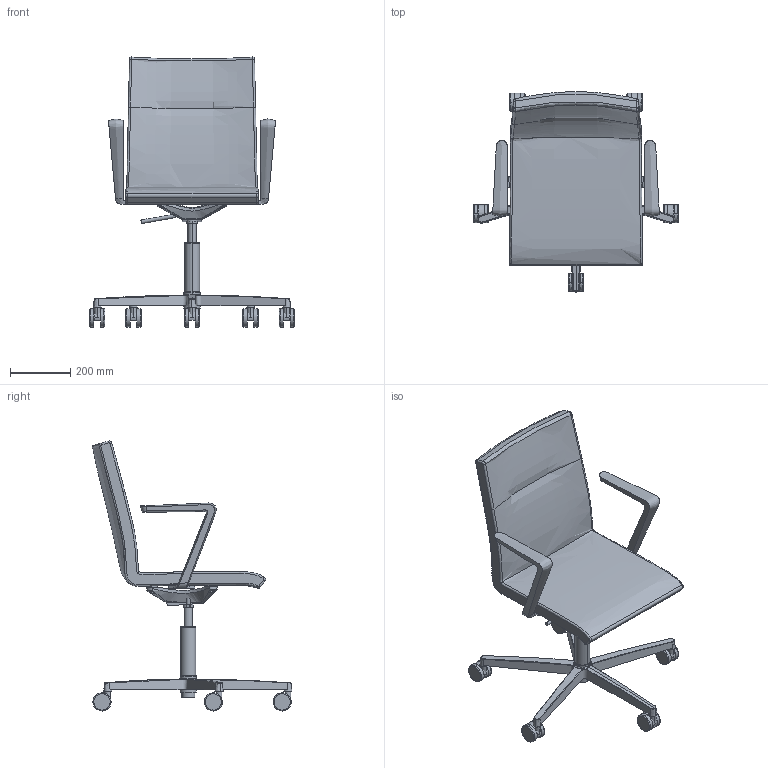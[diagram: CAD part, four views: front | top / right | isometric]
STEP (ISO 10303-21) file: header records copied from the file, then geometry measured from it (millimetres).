
FILE_DESCRIPTION(/* description */ (''),/* implementation_level */ '2;1');
FILE_NAME(/* name */ 'SEANCE~3',/* time_stamp */ '2017-01-03T13:23:17+01:00',/* author */ (''),/* organization */ (''),/* preprocessor_version */ 'ST-DEVELOPER v15',/* originating_system */ '',/* authorisation */ '');
FILE_SCHEMA (('CONFIG_CONTROL_DESIGN'));
Length unit declared in the file: millimetre
Products named in the file (1): Document
Bounding box: 677.7 x 662.67 x 894.63 mm (x, y, z)
Volume: 19314556 mm3; surface area: 1446098.4 mm2
Topology: 13 solids, 37 shells, 269 faces, 615 edges, 391 vertices
Faces by surface type: bspline 206, plane 63
Entity records: 19127 total; most frequent: CARTESIAN_POINT 15555, ORIENTED_EDGE 1123, EDGE_CURVE 612, VERTEX_POINT 385, EDGE_LOOP 272, ADVANCED_FACE 269, FACE_OUTER_BOUND 269, B_SPLINE_CURVE_WITH_KNOTS 217
